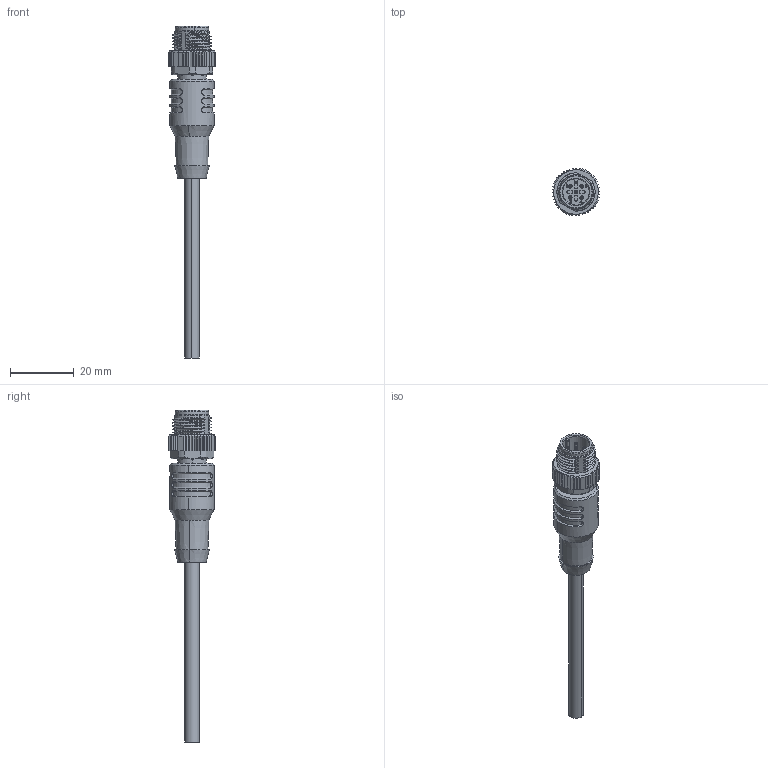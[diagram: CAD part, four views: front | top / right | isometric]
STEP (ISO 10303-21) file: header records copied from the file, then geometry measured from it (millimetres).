
FILE_DESCRIPTION (( 'STEP AP203' ), '1' );
FILE_NAME ('M12 5针 A 公直47.8 （小包胶体31 螺丝更新）.STEP', '2024-12-04T07:40:02', ( 'L' ), ( '' ), 'SwSTEP 2.0', 'SolidWorks 2019', '' );
FILE_SCHEMA (( 'CONFIG_CONTROL_DESIGN' ));
Length unit declared in the file: millimetre
Products named in the file (1): M12 5针 A 公直47.8 （小包胶体31 螺丝更新）
Bounding box: 14.99 x 15 x 104.37 mm (x, y, z)
Volume: 6076.6 mm3; surface area: 4617.9 mm2
Topology: 1 solids, 1 shells, 790 faces, 2259 edges, 1500 vertices
Faces by surface type: plane 380, cylinder 214, bspline 93, cone 73, torus 30
Entity records: 41574 total; most frequent: CARTESIAN_POINT 22558, ORIENTED_EDGE 4518, DIRECTION 3153, EDGE_CURVE 2259, VERTEX_POINT 1500, AXIS2_PLACEMENT_3D 1091, VECTOR 971, LINE 971
